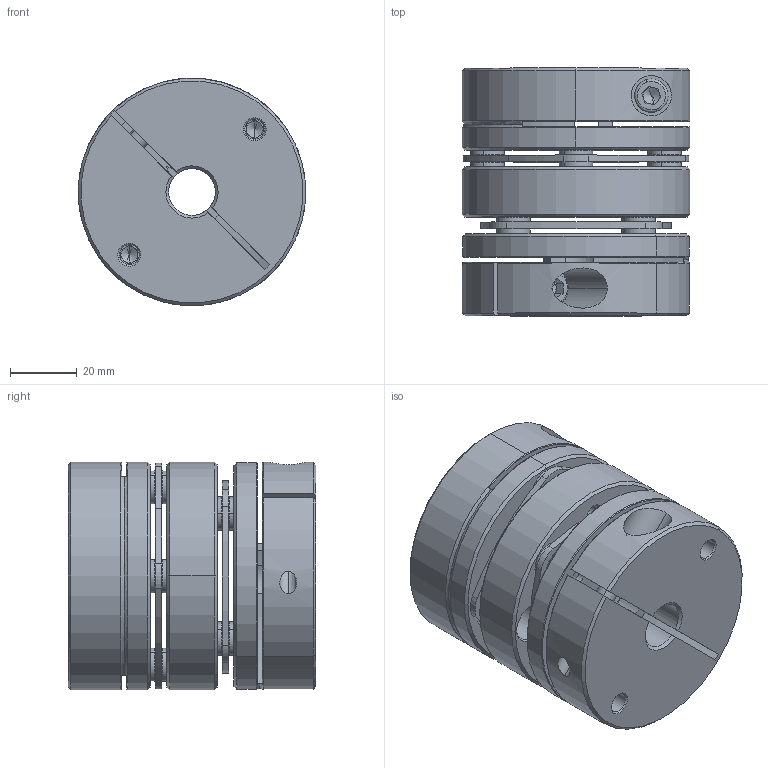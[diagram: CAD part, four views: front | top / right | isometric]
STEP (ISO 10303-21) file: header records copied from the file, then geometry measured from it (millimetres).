
FILE_DESCRIPTION (( 'STEP AP203' ), '1' );
FILE_NAME ('LD2-D68-14-14.STEP', '2021-10-26T08:07:19', ( '' ), ( '' ), 'SwSTEP 2.0', 'SolidWorks 2018', '' );
FILE_SCHEMA (( 'CONFIG_CONTROL_DESIGN' ));
Length unit declared in the file: millimetre
Products named in the file (2): LD2-D68-14-14; 錨璃102^LD2-D68
Assembly tree (1 placements, depth 2):
  LD2-D68-14-14
    錨璃102^LD2-D68
Bounding box: 68 x 74 x 68 mm (x, y, z)
Volume: 196994.4 mm3; surface area: 65278.8 mm2
Topology: 1 solids, 27 shells, 736 faces, 1728 edges, 1052 vertices
Faces by surface type: cylinder 256, cone 226, plane 224, torus 30
Entity records: 21710 total; most frequent: DIRECTION 4034, CARTESIAN_POINT 3962, ORIENTED_EDGE 3408, EDGE_CURVE 1704, AXIS2_PLACEMENT_3D 1636, VERTEX_POINT 1052, CIRCLE 896, EDGE_LOOP 872
